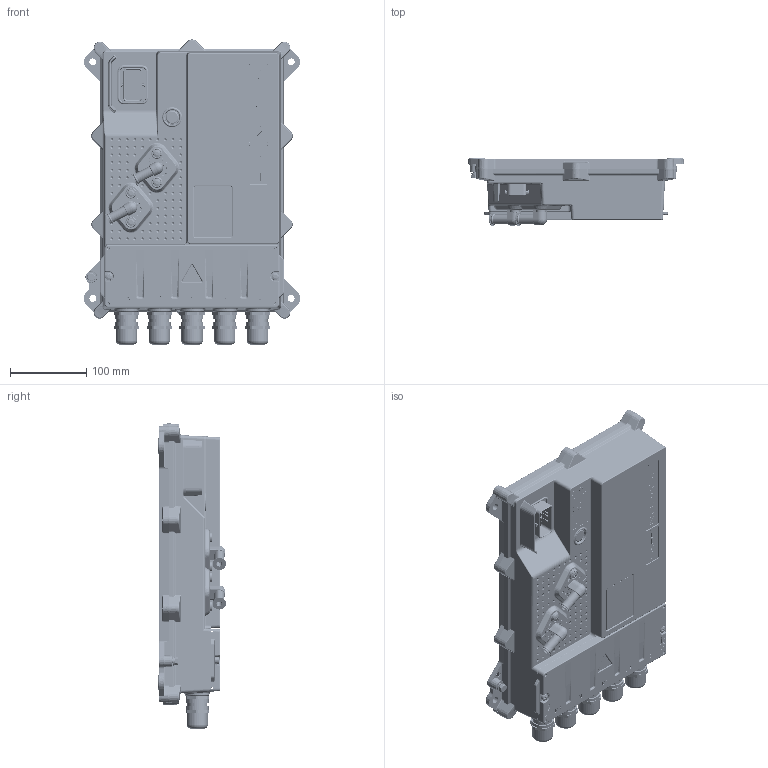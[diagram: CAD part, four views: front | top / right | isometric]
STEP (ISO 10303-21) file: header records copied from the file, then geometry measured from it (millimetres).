
FILE_DESCRIPTION (( 'STEP AP203' ), '1' );
FILE_NAME ('Gen5 SIZE 9 CONTROLLER ASSEMBLY - ALPHA_21022018.STEP', '2018-02-21T15:42:49', ( '' ), ( '' ), 'SwSTEP 2.0', 'SolidWorks 2017', '' );
FILE_SCHEMA (( 'CONFIG_CONTROL_DESIGN' ));
Products named in the file (2): Gen5 SIZE 9 CONTROLLER ASSEMBLY - ALPHA_21022018
Bounding box: 283.28 x 89 x 400 mm (x, y, z)
Volume: 1154951.1 mm3; surface area: 722282.5 mm2
Topology: 57 solids, 57 shells, 8717 faces, 22029 edges, 13990 vertices
Faces by surface type: plane 3887, cylinder 1611, bspline 1567, cone 895, torus 672, sphere 85
Entity records: 327356 total; most frequent: CARTESIAN_POINT 128069, ORIENTED_EDGE 43790, DIRECTION 37517, EDGE_CURVE 21895, VERTEX_POINT 13984, AXIS2_PLACEMENT_3D 12676, LINE 12165, VECTOR 12165
